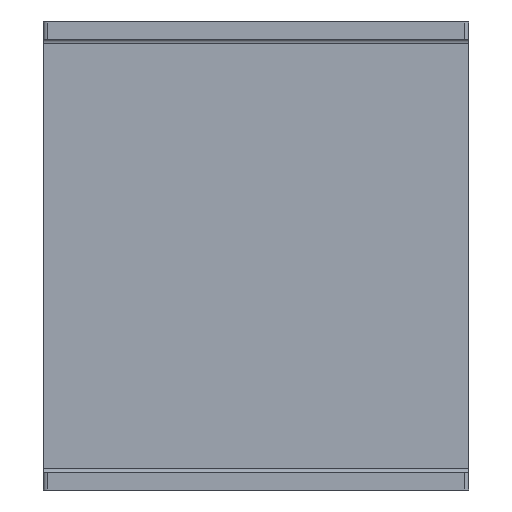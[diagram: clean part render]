
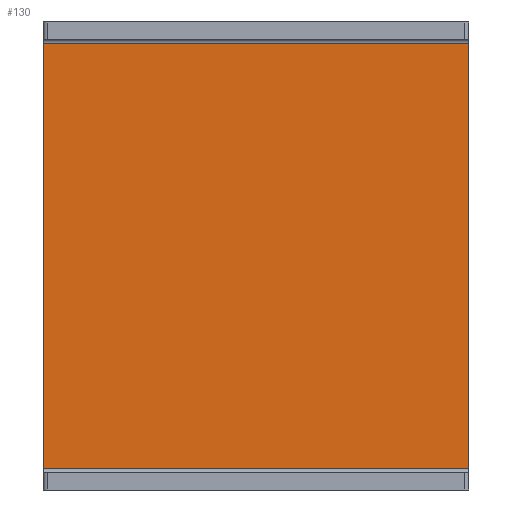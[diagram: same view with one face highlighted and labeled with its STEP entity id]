
A CAD part, left-side view. The second image highlights one B-rep face of the part: STEP entity #130.
In plain terms, the highlighted planar face has unit normal (-1, 0, 0).
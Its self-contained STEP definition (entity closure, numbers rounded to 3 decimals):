
#91=CARTESIAN_POINT('',(1620.1,5405.,-102.5));
#92=DIRECTION('',(-1.,0.,0.));
#93=DIRECTION('',(0.,0.,1.));
#94=AXIS2_PLACEMENT_3D('',#91,#92,#93);
#95=PLANE('',#94);
#96=CARTESIAN_POINT('',(1620.1,5455.,-97.5));
#97=VERTEX_POINT('',#96);
#98=CARTESIAN_POINT('',(1620.1,5455.,2.5));
#99=VERTEX_POINT('',#98);
#100=CARTESIAN_POINT('',(1620.1,5455.,-97.5));
#101=DIRECTION('',(0.,0.,1.));
#102=VECTOR('',#101,100.);
#103=LINE('',#100,#102);
#104=EDGE_CURVE('',#97,#99,#103,.T.);
#105=ORIENTED_EDGE('',*,*,#104,.F.);
#106=CARTESIAN_POINT('',(1620.1,5355.,-97.5));
#107=VERTEX_POINT('',#106);
#108=CARTESIAN_POINT('',(1620.1,5455.,-97.5));
#109=DIRECTION('',(0.,-1.,0.));
#110=VECTOR('',#109,100.);
#111=LINE('',#108,#110);
#112=EDGE_CURVE('',#97,#107,#111,.T.);
#113=ORIENTED_EDGE('',*,*,#112,.T.);
#114=CARTESIAN_POINT('',(1620.1,5355.,2.5));
#115=VERTEX_POINT('',#114);
#116=CARTESIAN_POINT('',(1620.1,5355.,-97.5));
#117=DIRECTION('',(0.,0.,1.));
#118=VECTOR('',#117,100.);
#119=LINE('',#116,#118);
#120=EDGE_CURVE('',#107,#115,#119,.T.);
#121=ORIENTED_EDGE('',*,*,#120,.T.);
#122=CARTESIAN_POINT('',(1620.1,5355.,2.5));
#123=DIRECTION('',(-0.,1.,-0.));
#124=VECTOR('',#123,100.);
#125=LINE('',#122,#124);
#126=EDGE_CURVE('',#115,#99,#125,.T.);
#127=ORIENTED_EDGE('',*,*,#126,.T.);
#128=EDGE_LOOP('',(#105,#113,#121,#127));
#129=FACE_BOUND('',#128,.T.);
#130=ADVANCED_FACE('',(#129),#95,.T.);
